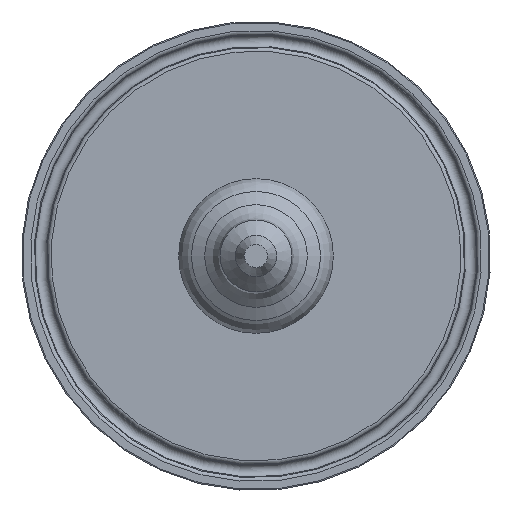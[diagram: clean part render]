
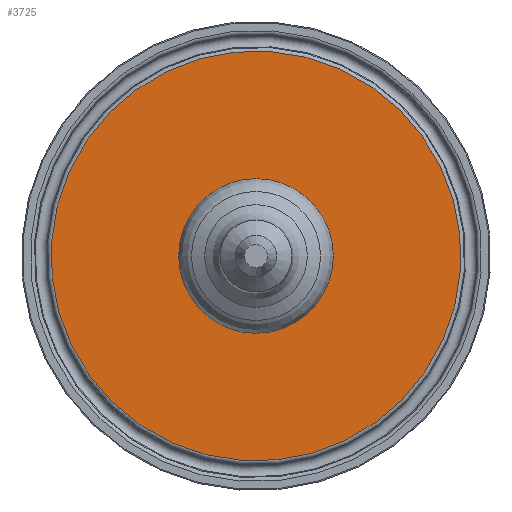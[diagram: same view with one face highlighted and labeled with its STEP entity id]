
A CAD part, left-side view. The second image highlights one B-rep face of the part: STEP entity #3725.
In plain terms, the highlighted planar face has unit normal (-1, 0, 0).
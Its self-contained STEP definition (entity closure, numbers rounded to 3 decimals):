
#566=PLANE('',#3907);
#621=ORIENTED_EDGE('',*,*,#1355,.F.);
#622=ORIENTED_EDGE('',*,*,#1354,.T.);
#1354=EDGE_CURVE('',#1723,#1723,#1985,.T.);
#1355=EDGE_CURVE('',#1724,#1724,#1986,.F.);
#1723=VERTEX_POINT('',#4557);
#1724=VERTEX_POINT('',#4560);
#1985=CIRCLE('',#3906,39.747);
#1986=CIRCLE('',#3908,15.);
#2056=EDGE_LOOP('',(#621));
#2057=EDGE_LOOP('',(#622));
#2289=FACE_BOUND('',#2056,.T.);
#2290=FACE_BOUND('',#2057,.T.);
#3725=ADVANCED_FACE('',(#2289,#2290),#566,.F.);
#3906=AXIS2_PLACEMENT_3D('',#4556,#4090,#4091);
#3907=AXIS2_PLACEMENT_3D('',#4558,#4092,#4093);
#3908=AXIS2_PLACEMENT_3D('',#4559,#4094,#4095);
#4090=DIRECTION('',(-1.,0.,0.));
#4091=DIRECTION('',(0.,-0.409,0.913));
#4092=DIRECTION('',(1.,0.,0.));
#4093=DIRECTION('',(0.,0.409,-0.913));
#4094=DIRECTION('',(1.,0.,0.));
#4095=DIRECTION('',(0.,0.,-1.));
#4556=CARTESIAN_POINT('',(150.,0.,0.));
#4557=CARTESIAN_POINT('',(150.,-16.238,36.279));
#4558=CARTESIAN_POINT('',(150.,-8.119,18.139));
#4559=CARTESIAN_POINT('',(150.,0.,0.));
#4560=CARTESIAN_POINT('',(150.,0.,-15.));
